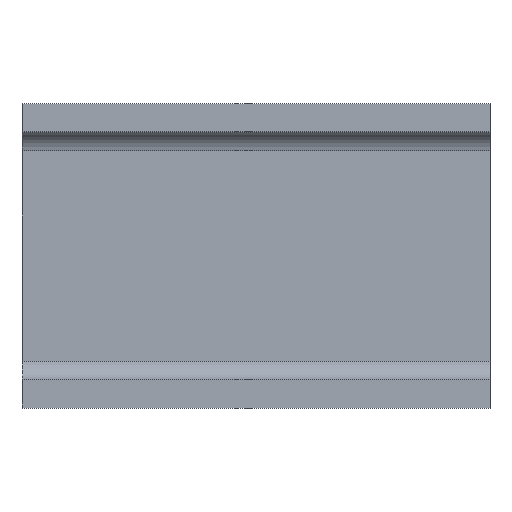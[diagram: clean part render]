
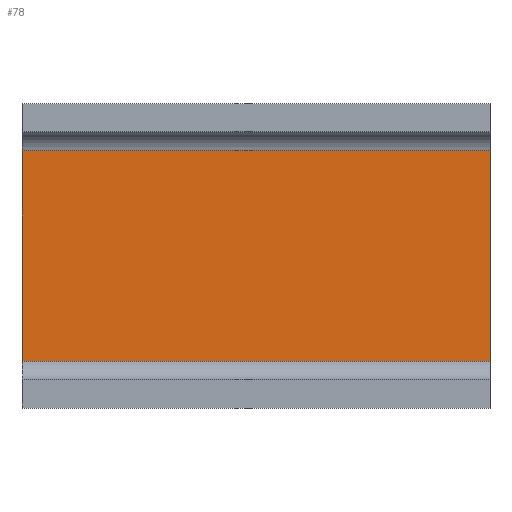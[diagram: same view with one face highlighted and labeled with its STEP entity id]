
A CAD part, top view. The second image highlights one B-rep face of the part: STEP entity #78.
In plain terms, the highlighted planar face has unit normal (0, 0, 1).
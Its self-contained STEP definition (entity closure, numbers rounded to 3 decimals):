
#78 = ADVANCED_FACE( '', ( #96 ), #97, .T. );
#96 = FACE_OUTER_BOUND( '', #124, .T. );
#97 = PLANE( '', #125 );
#124 = EDGE_LOOP( '', ( #167, #168, #169, #170 ) );
#125 = AXIS2_PLACEMENT_3D( '', #171, #172, #173 );
#167 = ORIENTED_EDGE( '', *, *, #270, .T. );
#168 = ORIENTED_EDGE( '', *, *, #271, .F. );
#169 = ORIENTED_EDGE( '', *, *, #272, .T. );
#170 = ORIENTED_EDGE( '', *, *, #268, .T. );
#171 = CARTESIAN_POINT( '', ( 0., -22.5, 6. ) );
#172 = DIRECTION( '', ( 0., 0., 1. ) );
#173 = DIRECTION( '', ( 0., -1., 0. ) );
#268 = EDGE_CURVE( '', #311, #309, #312, .T. );
#270 = EDGE_CURVE( '', #309, #314, #315, .T. );
#271 = EDGE_CURVE( '', #316, #314, #317, .T. );
#272 = EDGE_CURVE( '', #316, #311, #318, .T. );
#309 = VERTEX_POINT( '', #376 );
#311 = VERTEX_POINT( '', #378 );
#312 = LINE( '', #379, #380 );
#314 = VERTEX_POINT( '', #382 );
#315 = LINE( '', #383, #384 );
#316 = VERTEX_POINT( '', #385 );
#317 = LINE( '', #386, #387 );
#318 = LINE( '', #388, #389 );
#376 = CARTESIAN_POINT( '', ( 100., -22.5, 6. ) );
#378 = CARTESIAN_POINT( '', ( 0., -22.5, 6. ) );
#379 = CARTESIAN_POINT( '', ( 0., -22.5, 6. ) );
#380 = VECTOR( '', #454, 1. );
#382 = CARTESIAN_POINT( '', ( 100., 22.5, 6. ) );
#383 = CARTESIAN_POINT( '', ( 100., 22.5, 6. ) );
#384 = VECTOR( '', #458, 1. );
#385 = CARTESIAN_POINT( '', ( 0., 22.5, 6. ) );
#386 = CARTESIAN_POINT( '', ( 0., 22.5, 6. ) );
#387 = VECTOR( '', #459, 1. );
#388 = CARTESIAN_POINT( '', ( 0., 22.5, 6. ) );
#389 = VECTOR( '', #460, 1. );
#454 = DIRECTION( '', ( 1., 0., 0. ) );
#458 = DIRECTION( '', ( 0., 1., 0. ) );
#459 = DIRECTION( '', ( 1., 0., 0. ) );
#460 = DIRECTION( '', ( 0., -1., 0. ) );
